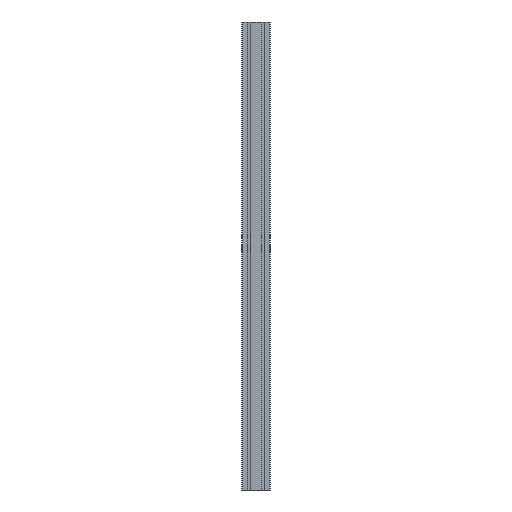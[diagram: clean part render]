
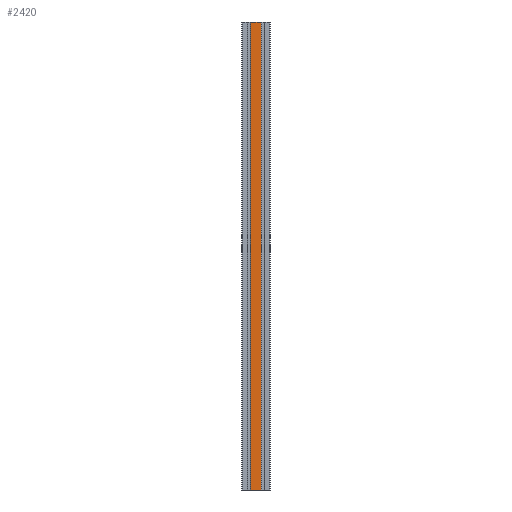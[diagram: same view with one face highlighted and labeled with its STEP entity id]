
A CAD part, front view. The second image highlights one B-rep face of the part: STEP entity #2420.
In plain terms, the highlighted planar face has unit normal (0, -1, 0).
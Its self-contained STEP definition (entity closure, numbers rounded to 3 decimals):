
#2362=CARTESIAN_POINT('',(281.198,140.152,1000.0));
#2363=VERTEX_POINT('',#2362);
#2371=CARTESIAN_POINT('',(281.198,140.152,0.0));
#2372=VERTEX_POINT('',#2371);
#2373=CARTESIAN_POINT('',(281.198,140.152,0.0));
#2374=DIRECTION('',(0.0,0.0,1.0));
#2375=VECTOR('',#2374,1000.0);
#2376=LINE('',#2373,#2375);
#2377=EDGE_CURVE('',#2372,#2363,#2376,.T.);
#2390=CARTESIAN_POINT('',(281.198,140.152,0.0));
#2391=DIRECTION('',(0.0,-1.0,0.0));
#2392=DIRECTION('',(0.0,0.0,-1.0));
#2393=AXIS2_PLACEMENT_3D('',#2390,#2391,#2392);
#2394=PLANE('',#2393);
#2395=CARTESIAN_POINT('',(258.498,140.152,1000.0));
#2396=VERTEX_POINT('',#2395);
#2397=CARTESIAN_POINT('',(281.198,140.152,1000.0));
#2398=DIRECTION('',(-1.0,0.0,0.0));
#2399=VECTOR('',#2398,22.7);
#2400=LINE('',#2397,#2399);
#2401=EDGE_CURVE('',#2363,#2396,#2400,.T.);
#2402=ORIENTED_EDGE('',*,*,#2401,.T.);
#2403=CARTESIAN_POINT('',(258.498,140.152,0.0));
#2404=VERTEX_POINT('',#2403);
#2405=CARTESIAN_POINT('',(258.498,140.152,0.0));
#2406=DIRECTION('',(0.0,0.0,1.0));
#2407=VECTOR('',#2406,1000.0);
#2408=LINE('',#2405,#2407);
#2409=EDGE_CURVE('',#2404,#2396,#2408,.T.);
#2410=ORIENTED_EDGE('',*,*,#2409,.F.);
#2411=CARTESIAN_POINT('',(281.198,140.152,0.0));
#2412=DIRECTION('',(-1.0,0.0,0.0));
#2413=VECTOR('',#2412,22.7);
#2414=LINE('',#2411,#2413);
#2415=EDGE_CURVE('',#2372,#2404,#2414,.T.);
#2416=ORIENTED_EDGE('',*,*,#2415,.F.);
#2417=ORIENTED_EDGE('',*,*,#2377,.T.);
#2418=EDGE_LOOP('',(#2402,#2410,#2416,#2417));
#2419=FACE_OUTER_BOUND('',#2418,.T.);
#2420=ADVANCED_FACE('',(#2419),#2394,.T.);
